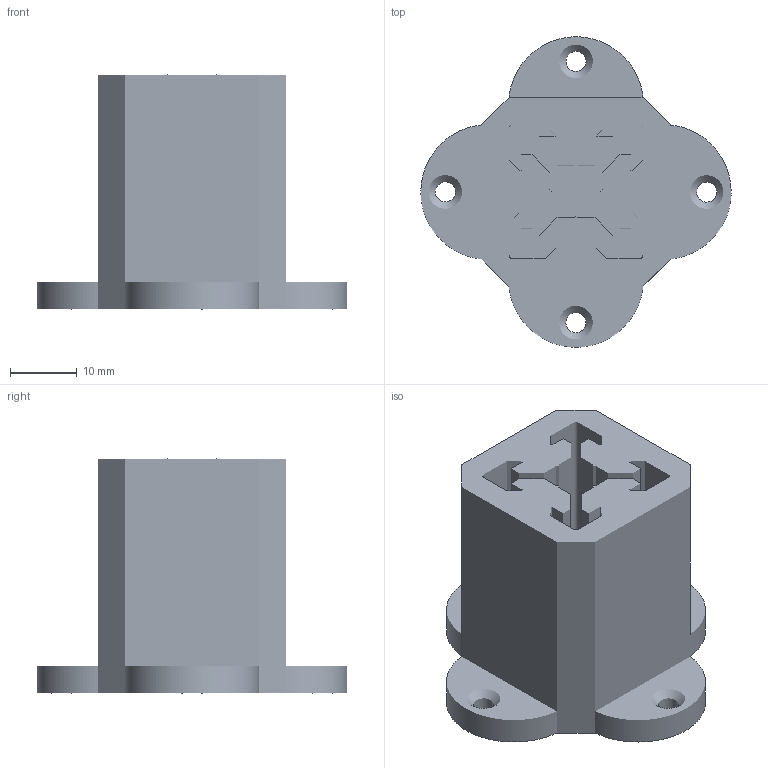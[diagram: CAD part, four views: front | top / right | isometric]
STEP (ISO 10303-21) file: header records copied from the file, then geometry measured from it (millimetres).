
FILE_DESCRIPTION(/* description */ ('STEP AP242 Edition 2','CAx-IF Rec.Pracs.---Representation and Presentation of Product Manufacturing Information (PMI)---4.0---2014-10-13','CAx-IF Rec.Pracs.---3D Tessellated Geometry---0.4---2014-09-14','2;1','CAx-IF Rec.Pracs.---User Defined Attributes---1.5---2016-08-15'),/* implementation_level */ '2;1');
FILE_NAME(/* name */ '20x20 End Bracket',/* time_stamp */ '2025-11-29T19:52:45Z',/* author */ (''),/* organization */ (''),/* preprocessor_version */ 'ST-DEVELOPER v20',/* originating_system */ 'ONSHAPE BY PTC INC, 1.207',/* authorisation */ ' ');
FILE_SCHEMA (('AP242_MANAGED_MODEL_BASED_3D_ENGINEERING_MIM_LF { 1 0 10303 442 3 1 4 }'));
Length unit declared in the file: metre
Products named in the file (1): Part 1
Bounding box: 46.33 x 46.33 x 35 mm (x, y, z)
Surface area: 10893.9 mm2 (no closed solid volume)
Topology: 0 solids, 1 shells, 1 faces, 0 edges, 0 vertices
Faces by surface type: other 1
Entity records: 38 total; most frequent: STYLED_ITEM 2, PRESENTATION_STYLE_ASSIGNMENT 2, SURFACE_STYLE_USAGE 2, SURFACE_SIDE_STYLE 2, SURFACE_STYLE_FILL_AREA 2, FILL_AREA_STYLE 2, FILL_AREA_STYLE_COLOUR 2, DIRECTION 2
